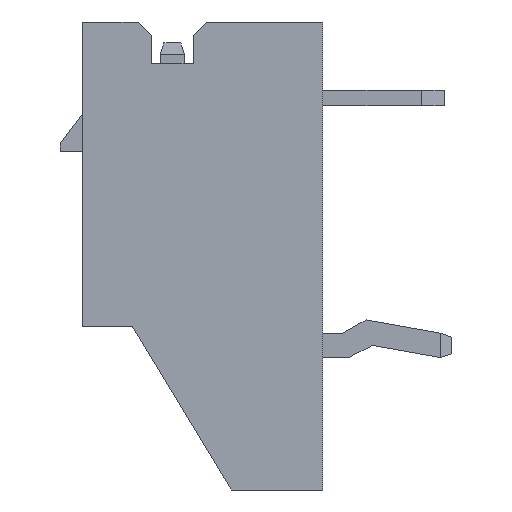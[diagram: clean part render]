
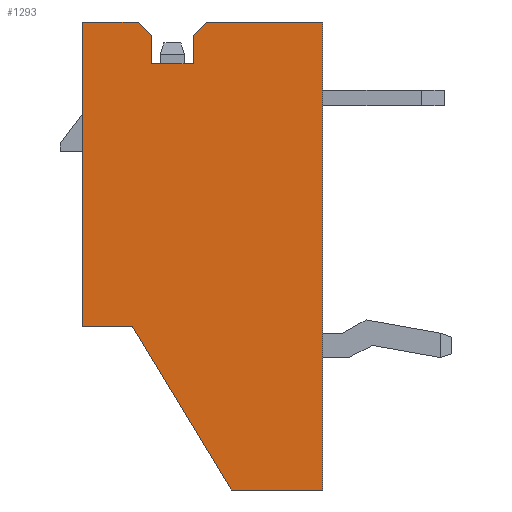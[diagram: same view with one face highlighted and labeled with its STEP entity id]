
A CAD part, left-side view. The second image highlights one B-rep face of the part: STEP entity #1293.
In plain terms, the highlighted planar face has unit normal (-1, 0, 0).
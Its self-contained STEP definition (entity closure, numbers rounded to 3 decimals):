
#848=CARTESIAN_POINT('Vertex',(-3.75,6.3,4.3)) ;
#853=CARTESIAN_POINT('Line Origine',(-3.75,6.3,8.3)) ;
#857=CARTESIAN_POINT('Vertex',(-3.75,6.3,12.3)) ;
#1184=CARTESIAN_POINT('Vertex',(-3.75,5.,4.3)) ;
#1187=CARTESIAN_POINT('Line Origine',(-3.75,5.65,4.3)) ;
#1206=CARTESIAN_POINT('Axis2P3D Location',(-3.75,0.,0.)) ;
#1211=CARTESIAN_POINT('Line Origine',(-3.75,1.525,12.3)) ;
#1215=CARTESIAN_POINT('Vertex',(-3.75,3.05,12.3)) ;
#1217=CARTESIAN_POINT('Vertex',(-3.75,0.,12.3)) ;
#1220=CARTESIAN_POINT('Line Origine',(-3.75,3.225,12.125)) ;
#1224=CARTESIAN_POINT('Vertex',(-3.75,3.4,11.95)) ;
#1227=CARTESIAN_POINT('Line Origine',(-3.75,3.4,11.575)) ;
#1231=CARTESIAN_POINT('Vertex',(-3.75,3.4,11.2)) ;
#1234=CARTESIAN_POINT('Line Origine',(-3.75,3.95,11.2)) ;
#1238=CARTESIAN_POINT('Vertex',(-3.75,4.5,11.2)) ;
#1241=CARTESIAN_POINT('Line Origine',(-3.75,4.5,11.575)) ;
#1245=CARTESIAN_POINT('Vertex',(-3.75,4.5,11.95)) ;
#1248=CARTESIAN_POINT('Line Origine',(-3.75,4.675,12.125)) ;
#1252=CARTESIAN_POINT('Vertex',(-3.75,4.85,12.3)) ;
#1255=CARTESIAN_POINT('Line Origine',(-3.75,5.575,12.3)) ;
#1260=CARTESIAN_POINT('Line Origine',(-3.75,3.7,2.15)) ;
#1264=CARTESIAN_POINT('Vertex',(-3.75,2.4,0.)) ;
#1267=CARTESIAN_POINT('Line Origine',(-3.75,1.2,0.)) ;
#1271=CARTESIAN_POINT('Vertex',(-3.75,0.,0.)) ;
#1274=CARTESIAN_POINT('Line Origine',(-3.75,0.,6.15)) ;
#854=DIRECTION('Vector Direction',(0.,0.,1.)) ;
#1188=DIRECTION('Vector Direction',(0.,1.,0.)) ;
#1207=DIRECTION('Axis2P3D Direction',(1.,0.,0.)) ;
#1208=DIRECTION('Axis2P3D XDirection',(0.,1.,0.)) ;
#1212=DIRECTION('Vector Direction',(0.,-1.,0.)) ;
#1221=DIRECTION('Vector Direction',(0.,-0.707,0.707)) ;
#1228=DIRECTION('Vector Direction',(0.,0.,1.)) ;
#1235=DIRECTION('Vector Direction',(0.,-1.,0.)) ;
#1242=DIRECTION('Vector Direction',(0.,0.,-1.)) ;
#1249=DIRECTION('Vector Direction',(0.,-0.707,-0.707)) ;
#1256=DIRECTION('Vector Direction',(0.,-1.,0.)) ;
#1261=DIRECTION('Vector Direction',(0.,0.517,0.856)) ;
#1268=DIRECTION('Vector Direction',(0.,1.,0.)) ;
#1275=DIRECTION('Vector Direction',(0.,0.,-1.)) ;
#1209=AXIS2_PLACEMENT_3D('Plane Axis2P3D',#1206,#1207,#1208) ;
#1280=ORIENTED_EDGE('',*,*,#1219,.F.) ;
#1281=ORIENTED_EDGE('',*,*,#1226,.F.) ;
#1282=ORIENTED_EDGE('',*,*,#1233,.F.) ;
#1283=ORIENTED_EDGE('',*,*,#1240,.F.) ;
#1284=ORIENTED_EDGE('',*,*,#1247,.F.) ;
#1285=ORIENTED_EDGE('',*,*,#1254,.F.) ;
#1286=ORIENTED_EDGE('',*,*,#1259,.F.) ;
#1287=ORIENTED_EDGE('',*,*,#859,.F.) ;
#1288=ORIENTED_EDGE('',*,*,#1191,.F.) ;
#1289=ORIENTED_EDGE('',*,*,#1266,.F.) ;
#1290=ORIENTED_EDGE('',*,*,#1273,.F.) ;
#1291=ORIENTED_EDGE('',*,*,#1278,.F.) ;
#855=VECTOR('Line Direction',#854,1.) ;
#1189=VECTOR('Line Direction',#1188,1.) ;
#1213=VECTOR('Line Direction',#1212,1.) ;
#1222=VECTOR('Line Direction',#1221,1.) ;
#1229=VECTOR('Line Direction',#1228,1.) ;
#1236=VECTOR('Line Direction',#1235,1.) ;
#1243=VECTOR('Line Direction',#1242,1.) ;
#1250=VECTOR('Line Direction',#1249,1.) ;
#1257=VECTOR('Line Direction',#1256,1.) ;
#1262=VECTOR('Line Direction',#1261,1.) ;
#1269=VECTOR('Line Direction',#1268,1.) ;
#1276=VECTOR('Line Direction',#1275,1.) ;
#1293=ADVANCED_FACE('\X2\96F64EF651E04F554F53\X0\',(#1292),#1210,.F.) ;
#859=EDGE_CURVE('',#849,#858,#856,.T.) ;
#1191=EDGE_CURVE('',#1185,#849,#1190,.T.) ;
#1219=EDGE_CURVE('',#1216,#1218,#1214,.T.) ;
#1226=EDGE_CURVE('',#1225,#1216,#1223,.T.) ;
#1233=EDGE_CURVE('',#1232,#1225,#1230,.T.) ;
#1240=EDGE_CURVE('',#1239,#1232,#1237,.T.) ;
#1247=EDGE_CURVE('',#1246,#1239,#1244,.T.) ;
#1254=EDGE_CURVE('',#1253,#1246,#1251,.T.) ;
#1259=EDGE_CURVE('',#858,#1253,#1258,.T.) ;
#1266=EDGE_CURVE('',#1265,#1185,#1263,.T.) ;
#1273=EDGE_CURVE('',#1272,#1265,#1270,.T.) ;
#1278=EDGE_CURVE('',#1218,#1272,#1277,.T.) ;
#1279=EDGE_LOOP('',(#1280,#1281,#1282,#1283,#1284,#1285,#1286,#1287,#1288,#1289,#1290,#1291)) ;
#1292=FACE_OUTER_BOUND('',#1279,.T.) ;
#856=LINE('Line',#853,#855) ;
#1190=LINE('Line',#1187,#1189) ;
#1214=LINE('Line',#1211,#1213) ;
#1223=LINE('Line',#1220,#1222) ;
#1230=LINE('Line',#1227,#1229) ;
#1237=LINE('Line',#1234,#1236) ;
#1244=LINE('Line',#1241,#1243) ;
#1251=LINE('Line',#1248,#1250) ;
#1258=LINE('Line',#1255,#1257) ;
#1263=LINE('Line',#1260,#1262) ;
#1270=LINE('Line',#1267,#1269) ;
#1277=LINE('Line',#1274,#1276) ;
#1210=PLANE('Plane',#1209) ;
#849=VERTEX_POINT('',#848) ;
#858=VERTEX_POINT('',#857) ;
#1185=VERTEX_POINT('',#1184) ;
#1216=VERTEX_POINT('',#1215) ;
#1218=VERTEX_POINT('',#1217) ;
#1225=VERTEX_POINT('',#1224) ;
#1232=VERTEX_POINT('',#1231) ;
#1239=VERTEX_POINT('',#1238) ;
#1246=VERTEX_POINT('',#1245) ;
#1253=VERTEX_POINT('',#1252) ;
#1265=VERTEX_POINT('',#1264) ;
#1272=VERTEX_POINT('',#1271) ;
